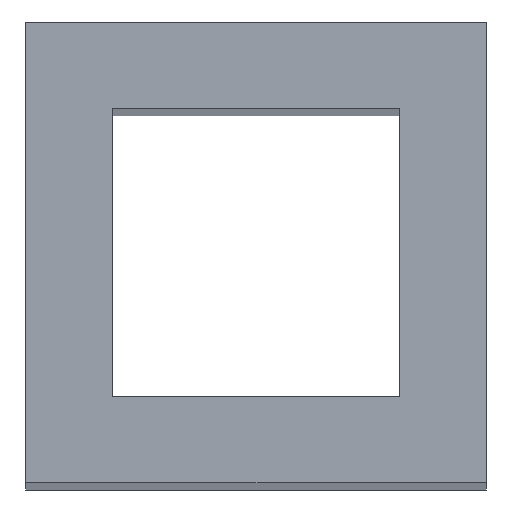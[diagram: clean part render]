
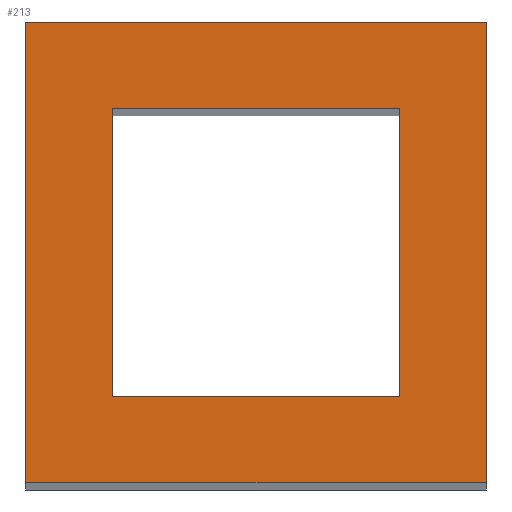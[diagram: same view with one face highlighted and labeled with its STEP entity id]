
A CAD part, top view. The second image highlights one B-rep face of the part: STEP entity #213.
In plain terms, the highlighted planar face has unit normal (0, 0, 1).
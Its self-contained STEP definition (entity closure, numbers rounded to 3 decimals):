
#24 = VERTEX_POINT('',#25);
#25 = CARTESIAN_POINT('',(-383.,-174.913,152.));
#32 = PLANE('',#33);
#33 = AXIS2_PLACEMENT_3D('',#34,#35,#36);
#34 = CARTESIAN_POINT('',(-383.,-174.913,4.));
#35 = DIRECTION('',(1.,0.,-0.));
#36 = DIRECTION('',(0.,0.,1.));
#44 = PLANE('',#45);
#45 = AXIS2_PLACEMENT_3D('',#46,#47,#48);
#46 = CARTESIAN_POINT('',(-383.,-174.913,4.));
#47 = DIRECTION('',(-0.,1.,0.));
#48 = DIRECTION('',(0.,0.,1.));
#85 = VERTEX_POINT('',#86);
#86 = CARTESIAN_POINT('',(-383.,-158.913,152.));
#100 = PLANE('',#101);
#101 = AXIS2_PLACEMENT_3D('',#102,#103,#104);
#102 = CARTESIAN_POINT('',(-383.,-158.913,4.));
#103 = DIRECTION('',(-0.,1.,0.));
#104 = DIRECTION('',(0.,0.,1.));
#112 = EDGE_CURVE('',#24,#85,#113,.T.);
#113 = SURFACE_CURVE('',#114,(#118,#125),.PCURVE_S1.);
#114 = LINE('',#115,#116);
#115 = CARTESIAN_POINT('',(-383.,-174.913,152.));
#116 = VECTOR('',#117,1.);
#117 = DIRECTION('',(-0.,1.,0.));
#118 = PCURVE('',#32,#119);
#119 = DEFINITIONAL_REPRESENTATION('',(#120),#124);
#120 = LINE('',#121,#122);
#121 = CARTESIAN_POINT('',(148.,0.));
#122 = VECTOR('',#123,1.);
#123 = DIRECTION('',(0.,-1.));
#124 = ( GEOMETRIC_REPRESENTATION_CONTEXT(2) 
PARAMETRIC_REPRESENTATION_CONTEXT() REPRESENTATION_CONTEXT('2D SPACE',''
  ) );
#125 = PCURVE('',#126,#131);
#126 = PLANE('',#127);
#127 = AXIS2_PLACEMENT_3D('',#128,#129,#130);
#128 = CARTESIAN_POINT('',(-383.,-174.913,152.));
#129 = DIRECTION('',(0.,0.,1.));
#130 = DIRECTION('',(1.,0.,-0.));
#131 = DEFINITIONAL_REPRESENTATION('',(#132),#136);
#132 = LINE('',#133,#134);
#133 = CARTESIAN_POINT('',(0.,0.));
#134 = VECTOR('',#135,1.);
#135 = DIRECTION('',(0.,1.));
#136 = ( GEOMETRIC_REPRESENTATION_CONTEXT(2) 
PARAMETRIC_REPRESENTATION_CONTEXT() REPRESENTATION_CONTEXT('2D SPACE',''
  ) );
#165 = EDGE_CURVE('',#24,#166,#168,.T.);
#166 = VERTEX_POINT('',#167);
#167 = CARTESIAN_POINT('',(-367.,-174.913,152.));
#168 = SURFACE_CURVE('',#169,(#173,#180),.PCURVE_S1.);
#169 = LINE('',#170,#171);
#170 = CARTESIAN_POINT('',(-383.,-174.913,152.));
#171 = VECTOR('',#172,1.);
#172 = DIRECTION('',(1.,0.,-0.));
#173 = PCURVE('',#44,#174);
#174 = DEFINITIONAL_REPRESENTATION('',(#175),#179);
#175 = LINE('',#176,#177);
#176 = CARTESIAN_POINT('',(148.,0.));
#177 = VECTOR('',#178,1.);
#178 = DIRECTION('',(0.,1.));
#179 = ( GEOMETRIC_REPRESENTATION_CONTEXT(2) 
PARAMETRIC_REPRESENTATION_CONTEXT() REPRESENTATION_CONTEXT('2D SPACE',''
  ) );
#180 = PCURVE('',#126,#181);
#181 = DEFINITIONAL_REPRESENTATION('',(#182),#186);
#182 = LINE('',#183,#184);
#183 = CARTESIAN_POINT('',(0.,0.));
#184 = VECTOR('',#185,1.);
#185 = DIRECTION('',(1.,0.));
#186 = ( GEOMETRIC_REPRESENTATION_CONTEXT(2) 
PARAMETRIC_REPRESENTATION_CONTEXT() REPRESENTATION_CONTEXT('2D SPACE',''
  ) );
#202 = PLANE('',#203);
#203 = AXIS2_PLACEMENT_3D('',#204,#205,#206);
#204 = CARTESIAN_POINT('',(-367.,-174.913,4.));
#205 = DIRECTION('',(1.,0.,-0.));
#206 = DIRECTION('',(0.,0.,1.));
#213 = ADVANCED_FACE('',(#214,#262),#126,.T.);
#214 = FACE_BOUND('',#215,.T.);
#215 = EDGE_LOOP('',(#216,#217,#218,#241));
#216 = ORIENTED_EDGE('',*,*,#112,.F.);
#217 = ORIENTED_EDGE('',*,*,#165,.T.);
#218 = ORIENTED_EDGE('',*,*,#219,.T.);
#219 = EDGE_CURVE('',#166,#220,#222,.T.);
#220 = VERTEX_POINT('',#221);
#221 = CARTESIAN_POINT('',(-367.,-158.913,152.));
#222 = SURFACE_CURVE('',#223,(#227,#234),.PCURVE_S1.);
#223 = LINE('',#224,#225);
#224 = CARTESIAN_POINT('',(-367.,-174.913,152.));
#225 = VECTOR('',#226,1.);
#226 = DIRECTION('',(-0.,1.,0.));
#227 = PCURVE('',#126,#228);
#228 = DEFINITIONAL_REPRESENTATION('',(#229),#233);
#229 = LINE('',#230,#231);
#230 = CARTESIAN_POINT('',(16.,0.));
#231 = VECTOR('',#232,1.);
#232 = DIRECTION('',(0.,1.));
#233 = ( GEOMETRIC_REPRESENTATION_CONTEXT(2) 
PARAMETRIC_REPRESENTATION_CONTEXT() REPRESENTATION_CONTEXT('2D SPACE',''
  ) );
#234 = PCURVE('',#202,#235);
#235 = DEFINITIONAL_REPRESENTATION('',(#236),#240);
#236 = LINE('',#237,#238);
#237 = CARTESIAN_POINT('',(148.,0.));
#238 = VECTOR('',#239,1.);
#239 = DIRECTION('',(0.,-1.));
#240 = ( GEOMETRIC_REPRESENTATION_CONTEXT(2) 
PARAMETRIC_REPRESENTATION_CONTEXT() REPRESENTATION_CONTEXT('2D SPACE',''
  ) );
#241 = ORIENTED_EDGE('',*,*,#242,.F.);
#242 = EDGE_CURVE('',#85,#220,#243,.T.);
#243 = SURFACE_CURVE('',#244,(#248,#255),.PCURVE_S1.);
#244 = LINE('',#245,#246);
#245 = CARTESIAN_POINT('',(-383.,-158.913,152.));
#246 = VECTOR('',#247,1.);
#247 = DIRECTION('',(1.,0.,-0.));
#248 = PCURVE('',#126,#249);
#249 = DEFINITIONAL_REPRESENTATION('',(#250),#254);
#250 = LINE('',#251,#252);
#251 = CARTESIAN_POINT('',(0.,16.));
#252 = VECTOR('',#253,1.);
#253 = DIRECTION('',(1.,0.));
#254 = ( GEOMETRIC_REPRESENTATION_CONTEXT(2) 
PARAMETRIC_REPRESENTATION_CONTEXT() REPRESENTATION_CONTEXT('2D SPACE',''
  ) );
#255 = PCURVE('',#100,#256);
#256 = DEFINITIONAL_REPRESENTATION('',(#257),#261);
#257 = LINE('',#258,#259);
#258 = CARTESIAN_POINT('',(148.,0.));
#259 = VECTOR('',#260,1.);
#260 = DIRECTION('',(0.,1.));
#261 = ( GEOMETRIC_REPRESENTATION_CONTEXT(2) 
PARAMETRIC_REPRESENTATION_CONTEXT() REPRESENTATION_CONTEXT('2D SPACE',''
  ) );
#262 = FACE_BOUND('',#263,.T.);
#263 = EDGE_LOOP('',(#264,#294,#322,#350));
#264 = ORIENTED_EDGE('',*,*,#265,.T.);
#265 = EDGE_CURVE('',#266,#268,#270,.T.);
#266 = VERTEX_POINT('',#267);
#267 = CARTESIAN_POINT('',(-370.,-171.913,152.));
#268 = VERTEX_POINT('',#269);
#269 = CARTESIAN_POINT('',(-380.,-171.913,152.));
#270 = SURFACE_CURVE('',#271,(#275,#282),.PCURVE_S1.);
#271 = LINE('',#272,#273);
#272 = CARTESIAN_POINT('',(-381.5,-171.913,152.));
#273 = VECTOR('',#274,1.);
#274 = DIRECTION('',(-1.,-0.,0.));
#275 = PCURVE('',#126,#276);
#276 = DEFINITIONAL_REPRESENTATION('',(#277),#281);
#277 = LINE('',#278,#279);
#278 = CARTESIAN_POINT('',(1.5,3.));
#279 = VECTOR('',#280,1.);
#280 = DIRECTION('',(-1.,0.));
#281 = ( GEOMETRIC_REPRESENTATION_CONTEXT(2) 
PARAMETRIC_REPRESENTATION_CONTEXT() REPRESENTATION_CONTEXT('2D SPACE',''
  ) );
#282 = PCURVE('',#283,#288);
#283 = PLANE('',#284);
#284 = AXIS2_PLACEMENT_3D('',#285,#286,#287);
#285 = CARTESIAN_POINT('',(-380.,-171.913,3.));
#286 = DIRECTION('',(-0.,1.,0.));
#287 = DIRECTION('',(0.,0.,1.));
#288 = DEFINITIONAL_REPRESENTATION('',(#289),#293);
#289 = LINE('',#290,#291);
#290 = CARTESIAN_POINT('',(149.,-1.5));
#291 = VECTOR('',#292,1.);
#292 = DIRECTION('',(0.,-1.));
#293 = ( GEOMETRIC_REPRESENTATION_CONTEXT(2) 
PARAMETRIC_REPRESENTATION_CONTEXT() REPRESENTATION_CONTEXT('2D SPACE',''
  ) );
#294 = ORIENTED_EDGE('',*,*,#295,.T.);
#295 = EDGE_CURVE('',#268,#296,#298,.T.);
#296 = VERTEX_POINT('',#297);
#297 = CARTESIAN_POINT('',(-380.,-161.913,152.));
#298 = SURFACE_CURVE('',#299,(#303,#310),.PCURVE_S1.);
#299 = LINE('',#300,#301);
#300 = CARTESIAN_POINT('',(-380.,-173.413,152.));
#301 = VECTOR('',#302,1.);
#302 = DIRECTION('',(-0.,1.,0.));
#303 = PCURVE('',#126,#304);
#304 = DEFINITIONAL_REPRESENTATION('',(#305),#309);
#305 = LINE('',#306,#307);
#306 = CARTESIAN_POINT('',(3.,1.5));
#307 = VECTOR('',#308,1.);
#308 = DIRECTION('',(0.,1.));
#309 = ( GEOMETRIC_REPRESENTATION_CONTEXT(2) 
PARAMETRIC_REPRESENTATION_CONTEXT() REPRESENTATION_CONTEXT('2D SPACE',''
  ) );
#310 = PCURVE('',#311,#316);
#311 = PLANE('',#312);
#312 = AXIS2_PLACEMENT_3D('',#313,#314,#315);
#313 = CARTESIAN_POINT('',(-380.,-171.913,3.));
#314 = DIRECTION('',(1.,0.,-0.));
#315 = DIRECTION('',(0.,0.,1.));
#316 = DEFINITIONAL_REPRESENTATION('',(#317),#321);
#317 = LINE('',#318,#319);
#318 = CARTESIAN_POINT('',(149.,1.5));
#319 = VECTOR('',#320,1.);
#320 = DIRECTION('',(0.,-1.));
#321 = ( GEOMETRIC_REPRESENTATION_CONTEXT(2) 
PARAMETRIC_REPRESENTATION_CONTEXT() REPRESENTATION_CONTEXT('2D SPACE',''
  ) );
#322 = ORIENTED_EDGE('',*,*,#323,.F.);
#323 = EDGE_CURVE('',#324,#296,#326,.T.);
#324 = VERTEX_POINT('',#325);
#325 = CARTESIAN_POINT('',(-370.,-161.913,152.));
#326 = SURFACE_CURVE('',#327,(#331,#338),.PCURVE_S1.);
#327 = LINE('',#328,#329);
#328 = CARTESIAN_POINT('',(-381.5,-161.913,152.));
#329 = VECTOR('',#330,1.);
#330 = DIRECTION('',(-1.,-0.,0.));
#331 = PCURVE('',#126,#332);
#332 = DEFINITIONAL_REPRESENTATION('',(#333),#337);
#333 = LINE('',#334,#335);
#334 = CARTESIAN_POINT('',(1.5,13.));
#335 = VECTOR('',#336,1.);
#336 = DIRECTION('',(-1.,0.));
#337 = ( GEOMETRIC_REPRESENTATION_CONTEXT(2) 
PARAMETRIC_REPRESENTATION_CONTEXT() REPRESENTATION_CONTEXT('2D SPACE',''
  ) );
#338 = PCURVE('',#339,#344);
#339 = PLANE('',#340);
#340 = AXIS2_PLACEMENT_3D('',#341,#342,#343);
#341 = CARTESIAN_POINT('',(-380.,-161.913,3.));
#342 = DIRECTION('',(-0.,1.,0.));
#343 = DIRECTION('',(0.,0.,1.));
#344 = DEFINITIONAL_REPRESENTATION('',(#345),#349);
#345 = LINE('',#346,#347);
#346 = CARTESIAN_POINT('',(149.,-1.5));
#347 = VECTOR('',#348,1.);
#348 = DIRECTION('',(0.,-1.));
#349 = ( GEOMETRIC_REPRESENTATION_CONTEXT(2) 
PARAMETRIC_REPRESENTATION_CONTEXT() REPRESENTATION_CONTEXT('2D SPACE',''
  ) );
#350 = ORIENTED_EDGE('',*,*,#351,.F.);
#351 = EDGE_CURVE('',#266,#324,#352,.T.);
#352 = SURFACE_CURVE('',#353,(#357,#364),.PCURVE_S1.);
#353 = LINE('',#354,#355);
#354 = CARTESIAN_POINT('',(-370.,-173.413,152.));
#355 = VECTOR('',#356,1.);
#356 = DIRECTION('',(-0.,1.,0.));
#357 = PCURVE('',#126,#358);
#358 = DEFINITIONAL_REPRESENTATION('',(#359),#363);
#359 = LINE('',#360,#361);
#360 = CARTESIAN_POINT('',(13.,1.5));
#361 = VECTOR('',#362,1.);
#362 = DIRECTION('',(0.,1.));
#363 = ( GEOMETRIC_REPRESENTATION_CONTEXT(2) 
PARAMETRIC_REPRESENTATION_CONTEXT() REPRESENTATION_CONTEXT('2D SPACE',''
  ) );
#364 = PCURVE('',#365,#370);
#365 = PLANE('',#366);
#366 = AXIS2_PLACEMENT_3D('',#367,#368,#369);
#367 = CARTESIAN_POINT('',(-370.,-171.913,3.));
#368 = DIRECTION('',(1.,0.,-0.));
#369 = DIRECTION('',(0.,0.,1.));
#370 = DEFINITIONAL_REPRESENTATION('',(#371),#375);
#371 = LINE('',#372,#373);
#372 = CARTESIAN_POINT('',(149.,1.5));
#373 = VECTOR('',#374,1.);
#374 = DIRECTION('',(0.,-1.));
#375 = ( GEOMETRIC_REPRESENTATION_CONTEXT(2) 
PARAMETRIC_REPRESENTATION_CONTEXT() REPRESENTATION_CONTEXT('2D SPACE',''
  ) );
